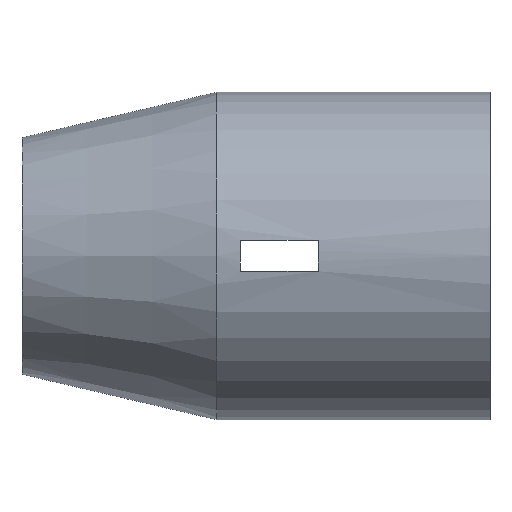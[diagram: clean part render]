
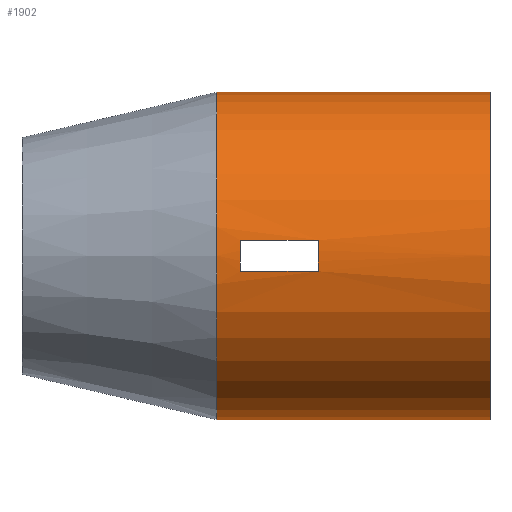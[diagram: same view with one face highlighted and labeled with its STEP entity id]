
A CAD part, top view. The second image highlights one B-rep face of the part: STEP entity #1902.
In plain terms, the highlighted cylindrical face has radius 42 mm (diameter 84 mm), a partial arc.
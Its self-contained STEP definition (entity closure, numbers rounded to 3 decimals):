
#45 = CONICAL_SURFACE('',#46,30.333,0.229);
#46 = AXIS2_PLACEMENT_3D('',#47,#48,#49);
#47 = CARTESIAN_POINT('',(10.,0.,0.));
#48 = DIRECTION('',(1.,0.,0.));
#49 = DIRECTION('',(-0.,1.,0.));
#72 = PLANE('',#73);
#73 = AXIS2_PLACEMENT_3D('',#74,#75,#76);
#74 = CARTESIAN_POINT('',(-1.,-50.,0.));
#75 = DIRECTION('',(0.,0.,1.));
#76 = DIRECTION('',(1.,0.,0.));
#125 = PLANE('',#126);
#126 = AXIS2_PLACEMENT_3D('',#127,#128,#129);
#127 = CARTESIAN_POINT('',(-1.,-50.,0.));
#128 = DIRECTION('',(0.,0.,1.));
#129 = DIRECTION('',(1.,0.,0.));
#140 = VERTEX_POINT('',#141);
#141 = CARTESIAN_POINT('',(60.,42.,0.));
#267 = VERTEX_POINT('',#268);
#268 = CARTESIAN_POINT('',(130.,42.,0.));
#281 = PLANE('',#282);
#282 = AXIS2_PLACEMENT_3D('',#283,#284,#285);
#283 = CARTESIAN_POINT('',(130.,0.,0.));
#284 = DIRECTION('',(1.,0.,0.));
#285 = DIRECTION('',(-0.,1.,0.));
#292 = EDGE_CURVE('',#140,#267,#293,.T.);
#293 = SURFACE_CURVE('',#294,(#298,#305),.PCURVE_S1.);
#294 = LINE('',#295,#296);
#295 = CARTESIAN_POINT('',(60.,42.,0.));
#296 = VECTOR('',#297,1.);
#297 = DIRECTION('',(1.,0.,0.));
#298 = PCURVE('',#72,#299);
#299 = DEFINITIONAL_REPRESENTATION('',(#300),#304);
#300 = LINE('',#301,#302);
#301 = CARTESIAN_POINT('',(61.,92.));
#302 = VECTOR('',#303,1.);
#303 = DIRECTION('',(1.,0.));
#304 = ( GEOMETRIC_REPRESENTATION_CONTEXT(2) 
PARAMETRIC_REPRESENTATION_CONTEXT() REPRESENTATION_CONTEXT('2D SPACE',''
  ) );
#305 = PCURVE('',#306,#311);
#306 = CYLINDRICAL_SURFACE('',#307,42.);
#307 = AXIS2_PLACEMENT_3D('',#308,#309,#310);
#308 = CARTESIAN_POINT('',(60.,0.,0.));
#309 = DIRECTION('',(1.,0.,0.));
#310 = DIRECTION('',(-0.,1.,0.));
#311 = DEFINITIONAL_REPRESENTATION('',(#312),#316);
#312 = LINE('',#313,#314);
#313 = CARTESIAN_POINT('',(0.,0.));
#314 = VECTOR('',#315,1.);
#315 = DIRECTION('',(0.,1.));
#316 = ( GEOMETRIC_REPRESENTATION_CONTEXT(2) 
PARAMETRIC_REPRESENTATION_CONTEXT() REPRESENTATION_CONTEXT('2D SPACE',''
  ) );
#410 = PLANE('',#411);
#411 = AXIS2_PLACEMENT_3D('',#412,#413,#414);
#412 = CARTESIAN_POINT('',(66.,-4.,38.));
#413 = DIRECTION('',(1.,0.,0.));
#414 = DIRECTION('',(0.,0.,1.));
#437 = PLANE('',#438);
#438 = AXIS2_PLACEMENT_3D('',#439,#440,#441);
#439 = CARTESIAN_POINT('',(66.,4.,38.));
#440 = DIRECTION('',(0.,1.,0.));
#441 = DIRECTION('',(0.,0.,1.));
#465 = PLANE('',#466);
#466 = AXIS2_PLACEMENT_3D('',#467,#468,#469);
#467 = CARTESIAN_POINT('',(86.,-4.,38.));
#468 = DIRECTION('',(1.,0.,0.));
#469 = DIRECTION('',(0.,0.,1.));
#490 = PLANE('',#491);
#491 = AXIS2_PLACEMENT_3D('',#492,#493,#494);
#492 = CARTESIAN_POINT('',(66.,-4.,38.));
#493 = DIRECTION('',(0.,1.,0.));
#494 = DIRECTION('',(0.,0.,1.));
#505 = VERTEX_POINT('',#506);
#506 = CARTESIAN_POINT('',(86.,-4.,41.809));
#529 = VERTEX_POINT('',#530);
#530 = CARTESIAN_POINT('',(86.,4.,41.809));
#551 = EDGE_CURVE('',#529,#505,#552,.T.);
#552 = SURFACE_CURVE('',#553,(#558,#565),.PCURVE_S1.);
#553 = CIRCLE('',#554,42.);
#554 = AXIS2_PLACEMENT_3D('',#555,#556,#557);
#555 = CARTESIAN_POINT('',(86.,0.,0.));
#556 = DIRECTION('',(1.,0.,0.));
#557 = DIRECTION('',(-0.,1.,0.));
#558 = PCURVE('',#465,#559);
#559 = DEFINITIONAL_REPRESENTATION('',(#560),#564);
#560 = CIRCLE('',#561,42.);
#561 = AXIS2_PLACEMENT_2D('',#562,#563);
#562 = CARTESIAN_POINT('',(-38.,-4.));
#563 = DIRECTION('',(0.,-1.));
#564 = ( GEOMETRIC_REPRESENTATION_CONTEXT(2) 
PARAMETRIC_REPRESENTATION_CONTEXT() REPRESENTATION_CONTEXT('2D SPACE',''
  ) );
#565 = PCURVE('',#306,#566);
#566 = DEFINITIONAL_REPRESENTATION('',(#567),#571);
#567 = LINE('',#568,#569);
#568 = CARTESIAN_POINT('',(0.,26.));
#569 = VECTOR('',#570,1.);
#570 = DIRECTION('',(1.,0.));
#571 = ( GEOMETRIC_REPRESENTATION_CONTEXT(2) 
PARAMETRIC_REPRESENTATION_CONTEXT() REPRESENTATION_CONTEXT('2D SPACE',''
  ) );
#579 = VERTEX_POINT('',#580);
#580 = CARTESIAN_POINT('',(66.,-4.,41.809));
#601 = EDGE_CURVE('',#579,#505,#602,.T.);
#602 = SURFACE_CURVE('',#603,(#607,#613),.PCURVE_S1.);
#603 = LINE('',#604,#605);
#604 = CARTESIAN_POINT('',(60.,-4.,41.809));
#605 = VECTOR('',#606,1.);
#606 = DIRECTION('',(1.,0.,0.));
#607 = PCURVE('',#490,#608);
#608 = DEFINITIONAL_REPRESENTATION('',(#609),#612);
#609 = B_SPLINE_CURVE_WITH_KNOTS('',1,(#610,#611),.UNSPECIFIED.,.F.,.F.,
  (2,2),(4.,28.),.PIECEWISE_BEZIER_KNOTS.);
#610 = CARTESIAN_POINT('',(3.809,-2.));
#611 = CARTESIAN_POINT('',(3.809,22.));
#612 = ( GEOMETRIC_REPRESENTATION_CONTEXT(2) 
PARAMETRIC_REPRESENTATION_CONTEXT() REPRESENTATION_CONTEXT('2D SPACE',''
  ) );
#613 = PCURVE('',#306,#614);
#614 = DEFINITIONAL_REPRESENTATION('',(#615),#618);
#615 = B_SPLINE_CURVE_WITH_KNOTS('',1,(#616,#617),.UNSPECIFIED.,.F.,.F.,
  (2,2),(4.,28.),.PIECEWISE_BEZIER_KNOTS.);
#616 = CARTESIAN_POINT('',(1.666,4.));
#617 = CARTESIAN_POINT('',(1.666,28.));
#618 = ( GEOMETRIC_REPRESENTATION_CONTEXT(2) 
PARAMETRIC_REPRESENTATION_CONTEXT() REPRESENTATION_CONTEXT('2D SPACE',''
  ) );
#626 = VERTEX_POINT('',#627);
#627 = CARTESIAN_POINT('',(66.,4.,41.809));
#648 = EDGE_CURVE('',#626,#529,#649,.T.);
#649 = SURFACE_CURVE('',#650,(#654,#660),.PCURVE_S1.);
#650 = LINE('',#651,#652);
#651 = CARTESIAN_POINT('',(60.,4.,41.809));
#652 = VECTOR('',#653,1.);
#653 = DIRECTION('',(1.,0.,0.));
#654 = PCURVE('',#437,#655);
#655 = DEFINITIONAL_REPRESENTATION('',(#656),#659);
#656 = B_SPLINE_CURVE_WITH_KNOTS('',1,(#657,#658),.UNSPECIFIED.,.F.,.F.,
  (2,2),(4.,28.),.PIECEWISE_BEZIER_KNOTS.);
#657 = CARTESIAN_POINT('',(3.809,-2.));
#658 = CARTESIAN_POINT('',(3.809,22.));
#659 = ( GEOMETRIC_REPRESENTATION_CONTEXT(2) 
PARAMETRIC_REPRESENTATION_CONTEXT() REPRESENTATION_CONTEXT('2D SPACE',''
  ) );
#660 = PCURVE('',#306,#661);
#661 = DEFINITIONAL_REPRESENTATION('',(#662),#665);
#662 = B_SPLINE_CURVE_WITH_KNOTS('',1,(#663,#664),.UNSPECIFIED.,.F.,.F.,
  (2,2),(4.,28.),.PIECEWISE_BEZIER_KNOTS.);
#663 = CARTESIAN_POINT('',(1.475,4.));
#664 = CARTESIAN_POINT('',(1.475,28.));
#665 = ( GEOMETRIC_REPRESENTATION_CONTEXT(2) 
PARAMETRIC_REPRESENTATION_CONTEXT() REPRESENTATION_CONTEXT('2D SPACE',''
  ) );
#673 = EDGE_CURVE('',#626,#579,#674,.T.);
#674 = SURFACE_CURVE('',#675,(#680,#687),.PCURVE_S1.);
#675 = CIRCLE('',#676,42.);
#676 = AXIS2_PLACEMENT_3D('',#677,#678,#679);
#677 = CARTESIAN_POINT('',(66.,0.,0.));
#678 = DIRECTION('',(1.,0.,0.));
#679 = DIRECTION('',(-0.,1.,0.));
#680 = PCURVE('',#410,#681);
#681 = DEFINITIONAL_REPRESENTATION('',(#682),#686);
#682 = CIRCLE('',#683,42.);
#683 = AXIS2_PLACEMENT_2D('',#684,#685);
#684 = CARTESIAN_POINT('',(-38.,-4.));
#685 = DIRECTION('',(0.,-1.));
#686 = ( GEOMETRIC_REPRESENTATION_CONTEXT(2) 
PARAMETRIC_REPRESENTATION_CONTEXT() REPRESENTATION_CONTEXT('2D SPACE',''
  ) );
#687 = PCURVE('',#306,#688);
#688 = DEFINITIONAL_REPRESENTATION('',(#689),#693);
#689 = LINE('',#690,#691);
#690 = CARTESIAN_POINT('',(0.,6.));
#691 = VECTOR('',#692,1.);
#692 = DIRECTION('',(1.,0.));
#693 = ( GEOMETRIC_REPRESENTATION_CONTEXT(2) 
PARAMETRIC_REPRESENTATION_CONTEXT() REPRESENTATION_CONTEXT('2D SPACE',''
  ) );
#1828 = EDGE_CURVE('',#267,#1829,#1831,.T.);
#1829 = VERTEX_POINT('',#1830);
#1830 = CARTESIAN_POINT('',(130.,-42.,0.));
#1831 = SURFACE_CURVE('',#1832,(#1837,#1844),.PCURVE_S1.);
#1832 = CIRCLE('',#1833,42.);
#1833 = AXIS2_PLACEMENT_3D('',#1834,#1835,#1836);
#1834 = CARTESIAN_POINT('',(130.,0.,0.));
#1835 = DIRECTION('',(1.,0.,0.));
#1836 = DIRECTION('',(-0.,1.,0.));
#1837 = PCURVE('',#281,#1838);
#1838 = DEFINITIONAL_REPRESENTATION('',(#1839),#1843);
#1839 = CIRCLE('',#1840,42.);
#1840 = AXIS2_PLACEMENT_2D('',#1841,#1842);
#1841 = CARTESIAN_POINT('',(0.,0.));
#1842 = DIRECTION('',(1.,0.));
#1843 = ( GEOMETRIC_REPRESENTATION_CONTEXT(2) 
PARAMETRIC_REPRESENTATION_CONTEXT() REPRESENTATION_CONTEXT('2D SPACE',''
  ) );
#1844 = PCURVE('',#306,#1845);
#1845 = DEFINITIONAL_REPRESENTATION('',(#1846),#1850);
#1846 = LINE('',#1847,#1848);
#1847 = CARTESIAN_POINT('',(0.,70.));
#1848 = VECTOR('',#1849,1.);
#1849 = DIRECTION('',(1.,0.));
#1850 = ( GEOMETRIC_REPRESENTATION_CONTEXT(2) 
PARAMETRIC_REPRESENTATION_CONTEXT() REPRESENTATION_CONTEXT('2D SPACE',''
  ) );
#1902 = ADVANCED_FACE('',(#1903,#1950),#306,.T.);
#1903 = FACE_BOUND('',#1904,.T.);
#1904 = EDGE_LOOP('',(#1905,#1906,#1930,#1949));
#1905 = ORIENTED_EDGE('',*,*,#292,.F.);
#1906 = ORIENTED_EDGE('',*,*,#1907,.T.);
#1907 = EDGE_CURVE('',#140,#1908,#1910,.T.);
#1908 = VERTEX_POINT('',#1909);
#1909 = CARTESIAN_POINT('',(60.,-42.,0.));
#1910 = SURFACE_CURVE('',#1911,(#1916,#1923),.PCURVE_S1.);
#1911 = CIRCLE('',#1912,42.);
#1912 = AXIS2_PLACEMENT_3D('',#1913,#1914,#1915);
#1913 = CARTESIAN_POINT('',(60.,0.,0.));
#1914 = DIRECTION('',(1.,0.,0.));
#1915 = DIRECTION('',(-0.,1.,0.));
#1916 = PCURVE('',#306,#1917);
#1917 = DEFINITIONAL_REPRESENTATION('',(#1918),#1922);
#1918 = LINE('',#1919,#1920);
#1919 = CARTESIAN_POINT('',(0.,0.));
#1920 = VECTOR('',#1921,1.);
#1921 = DIRECTION('',(1.,0.));
#1922 = ( GEOMETRIC_REPRESENTATION_CONTEXT(2) 
PARAMETRIC_REPRESENTATION_CONTEXT() REPRESENTATION_CONTEXT('2D SPACE',''
  ) );
#1923 = PCURVE('',#45,#1924);
#1924 = DEFINITIONAL_REPRESENTATION('',(#1925),#1929);
#1925 = LINE('',#1926,#1927);
#1926 = CARTESIAN_POINT('',(0.,50.));
#1927 = VECTOR('',#1928,1.);
#1928 = DIRECTION('',(1.,0.));
#1929 = ( GEOMETRIC_REPRESENTATION_CONTEXT(2) 
PARAMETRIC_REPRESENTATION_CONTEXT() REPRESENTATION_CONTEXT('2D SPACE',''
  ) );
#1930 = ORIENTED_EDGE('',*,*,#1931,.T.);
#1931 = EDGE_CURVE('',#1908,#1829,#1932,.T.);
#1932 = SURFACE_CURVE('',#1933,(#1937,#1943),.PCURVE_S1.);
#1933 = LINE('',#1934,#1935);
#1934 = CARTESIAN_POINT('',(60.,-42.,0.));
#1935 = VECTOR('',#1936,1.);
#1936 = DIRECTION('',(1.,0.,0.));
#1937 = PCURVE('',#306,#1938);
#1938 = DEFINITIONAL_REPRESENTATION('',(#1939),#1942);
#1939 = B_SPLINE_CURVE_WITH_KNOTS('',1,(#1940,#1941),.UNSPECIFIED.,.F.,
  .F.,(2,2),(0.,70.),.PIECEWISE_BEZIER_KNOTS.);
#1940 = CARTESIAN_POINT('',(3.142,0.));
#1941 = CARTESIAN_POINT('',(3.142,70.));
#1942 = ( GEOMETRIC_REPRESENTATION_CONTEXT(2) 
PARAMETRIC_REPRESENTATION_CONTEXT() REPRESENTATION_CONTEXT('2D SPACE',''
  ) );
#1943 = PCURVE('',#125,#1944);
#1944 = DEFINITIONAL_REPRESENTATION('',(#1945),#1948);
#1945 = B_SPLINE_CURVE_WITH_KNOTS('',1,(#1946,#1947),.UNSPECIFIED.,.F.,
  .F.,(2,2),(0.,70.),.PIECEWISE_BEZIER_KNOTS.);
#1946 = CARTESIAN_POINT('',(61.,8.));
#1947 = CARTESIAN_POINT('',(131.,8.));
#1948 = ( GEOMETRIC_REPRESENTATION_CONTEXT(2) 
PARAMETRIC_REPRESENTATION_CONTEXT() REPRESENTATION_CONTEXT('2D SPACE',''
  ) );
#1949 = ORIENTED_EDGE('',*,*,#1828,.F.);
#1950 = FACE_BOUND('',#1951,.T.);
#1951 = EDGE_LOOP('',(#1952,#1953,#1954,#1955));
#1952 = ORIENTED_EDGE('',*,*,#673,.F.);
#1953 = ORIENTED_EDGE('',*,*,#648,.T.);
#1954 = ORIENTED_EDGE('',*,*,#551,.T.);
#1955 = ORIENTED_EDGE('',*,*,#601,.F.);
